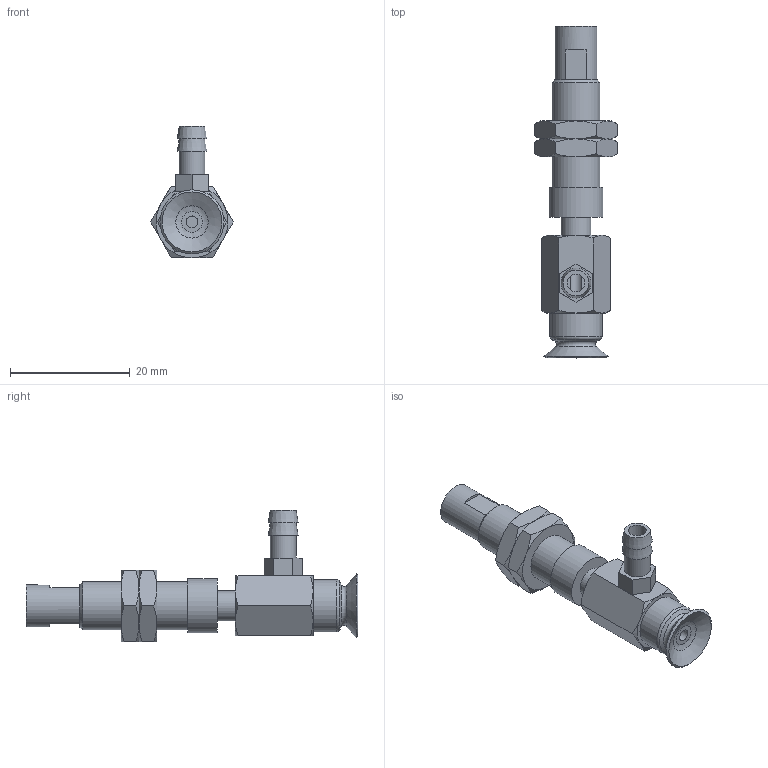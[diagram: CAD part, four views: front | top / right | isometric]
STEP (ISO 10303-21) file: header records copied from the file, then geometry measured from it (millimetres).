
FILE_DESCRIPTION(('STEP AP203'),'1');
FILE_NAME('-T.stp','2025-04-09T06:31:23',(' '),(' '),'Spatial InterOp 3D',' ',' ');
FILE_SCHEMA(('CONFIG_CONTROL_DESIGN'));
Length unit declared in the file: millimetre
Products named in the file (7): BNABPFYS-10A-3-※-T; CONNECTOR-10A-3; Nut-10A-3-s; NAPFTS-10A-3-FBODY; NAPFTS-10A-3-MBODY; BPFG-10A-※; T
Assembly tree (7 placements, depth 2):
  BNABPFYS-10A-3-※-T
    CONNECTOR-10A-3
    Nut-10A-3-s  x2
    NAPFTS-10A-3-FBODY
    NAPFTS-10A-3-MBODY
    BPFG-10A-※
    T
Bounding box: 13.86 x 55.5 x 22 mm (x, y, z)
Volume: 3554.3 mm3; surface area: 4457.8 mm2
Topology: 7 solids, 7 shells, 147 faces, 305 edges, 186 vertices
Faces by surface type: plane 64, cone 54, cylinder 20, torus 8, bspline 1
Full cylindrical faces by diameter (mm): 2 x2, 3 x1, 4 x2, 4.134 x2, 4.3 x1, 5 x4, 6 x2, 7 x1, 7.188 x2, 8 x1, 8.7 x1, 9 x1
Entity records: 3613 total; most frequent: CARTESIAN_POINT 863, DIRECTION 508, ORIENTED_EDGE 412, AXIS2_PLACEMENT_3D 225, EDGE_CURVE 206, EDGE_LOOP 192, FACE_OUTER_BOUND 152, VERTEX_POINT 150
